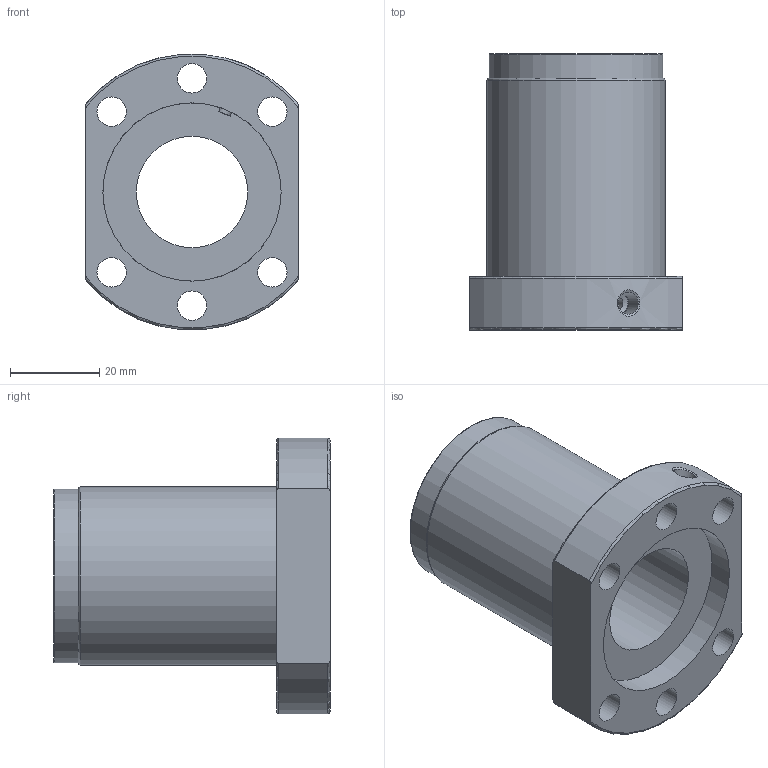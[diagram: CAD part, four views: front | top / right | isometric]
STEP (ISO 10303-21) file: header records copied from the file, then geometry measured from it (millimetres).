
FILE_DESCRIPTION(/* description */ ('Unknown'),/* implementation_level */ '2;1');
FILE_NAME(/* name */ '2510',/* time_stamp */ '2020-11-10T08:09:30+08:00',/* author */ ('Unknown'),/* organization */ ('Unknown'),/* preprocessor_version */ 'ST-DEVELOPER v16.7',/* originating_system */ 'DEX',/* authorisation */ $);
FILE_SCHEMA (('AUTOMOTIVE_DESIGN {1 0 10303 214 3 1 1}'));
Length unit declared in the file: millimetre
Products named in the file (1): 2510
Bounding box: 48 x 62 x 61.8 mm (x, y, z)
Volume: 56921.7 mm3; surface area: 19091.4 mm2
Topology: 1 solids, 1 shells, 30 faces, 84 edges, 57 vertices
Faces by surface type: cylinder 15, plane 7, torus 6, cone 2
Full cylindrical faces by diameter (mm): 3 x1, 4.917 x2, 6.6 x6, 25 x1, 39 x1, 40 x2
Entity records: 1591 total; most frequent: CARTESIAN_POINT 683, DIRECTION 141, ORIENTED_EDGE 110, AXIS2_PLACEMENT_3D 65, EDGE_LOOP 64, FACE_BOUND 64, EDGE_CURVE 55, VERTEX_POINT 45
